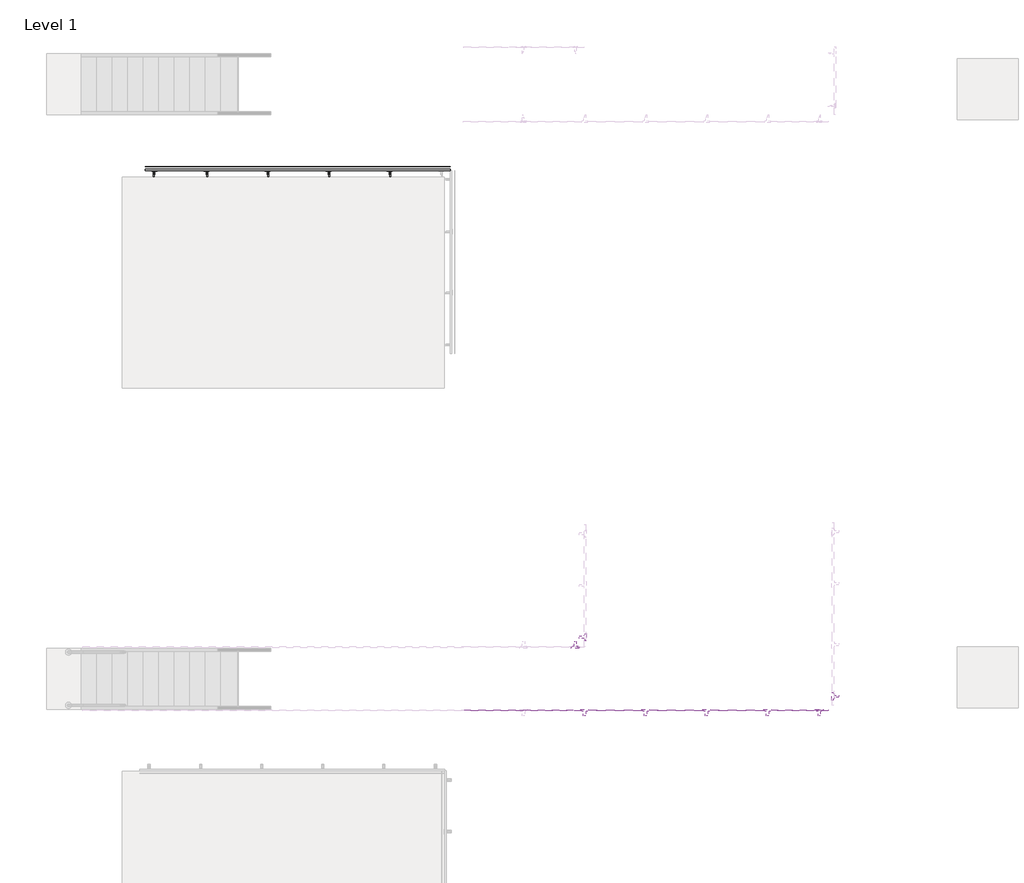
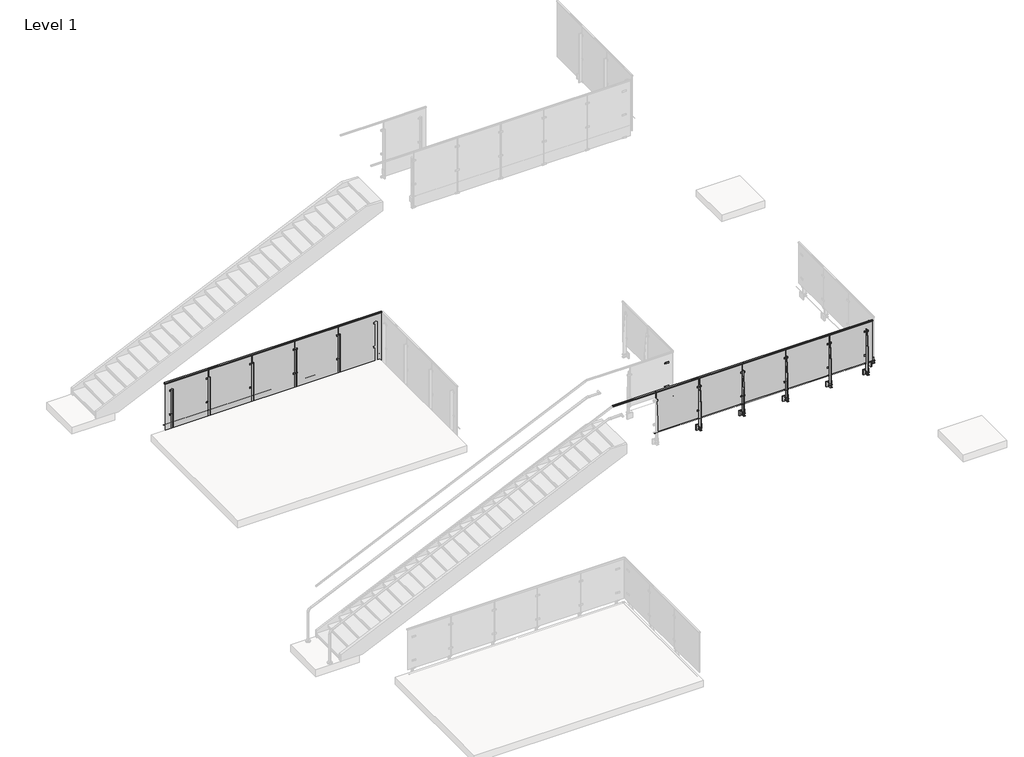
# One storey, part 19 of 37: 5 proxies, 2 railings.
"""IFC4 building model written with IfcOpenShell, lengths in millimetres."""

from ifc_helpers import new_model, si_unit, point, frame, frame_2d, origin, place, context, project, spatial, polyline, circle_curve, trimmed, segment, composite_curve, outline, extrude, faceted_brep, transform, mapped, element, save
from components import baluster_end_post_viva_solo_top_mount_260e03f1, baluster_end_post_viva_solo_top_mount_5ac118a2, baluster_end_post_viva_solo_top_mount_5a94812b

model = new_model("IFC4")

# Units and contexts
model_context = context("Model", 3, world=origin())
ifc_project = project(units=[si_unit("LENGTHUNIT", "METRE", prefix="MILLI")], contexts=[model_context])

# Site, building, storey
site = spatial("IfcSite", under=ifc_project)
building = spatial("IfcBuilding", under=site)
storey = spatial("IfcBuildingStorey", under=building, Name="Level 1", Elevation=0.0)

# Proxies
placement = place(None, origin())
baluster_end_post_viva_solo_top_mount_shape = baluster_end_post_viva_solo_top_mount_260e03f1(model_context)
element("IfcBuildingElementProxy", 1, Name="Baluster-End-Post-VIVA-SOLO-Top Mount : ANCHORED TO CONCRETE_FASCIA B1 MOUNT FOLD_STRAIGHT", ObjectType="Baluster-End-Post-VIVA-SOLO-Top Mount : ANCHORED TO CONCRETE_FASCIA B1 MOUNT FOLD_STRAIGHT", at=placement, inside=storey, context=model_context, shape_type="MappedRepresentation", body=[
    mapped(baluster_end_post_viva_solo_top_mount_shape, transform((-1336.4525648, 22865.7703161, 3047.492), x_axis=(0.0, 1.0, 0.0), y_axis=(-1.0, 0.0, 0.0), z_axis=(0.0, 0.0, 1.0))),
])
element("IfcBuildingElementProxy", 2, Name="Baluster-End-Post-VIVA-SOLO-Top Mount : ANCHORED TO CONCRETE_FASCIA B1 MOUNT FOLD_STRAIGHT", ObjectType="Baluster-End-Post-VIVA-SOLO-Top Mount : ANCHORED TO CONCRETE_FASCIA B1 MOUNT FOLD_STRAIGHT", at=placement, inside=storey, context=model_context, shape_type="MappedRepresentation", body=[
    mapped(baluster_end_post_viva_solo_top_mount_shape, transform((-5423.864819, 23785.0994132, 3047.492), x_axis=(-1.0, 0.0, 0.0), y_axis=(0.0, -1.0, 0.0), z_axis=(0.0, 0.0, 1.0))),
])
baluster_end_post_viva_solo_top_mount_2_shape = baluster_end_post_viva_solo_top_mount_5ac118a2(model_context)
element("IfcBuildingElementProxy", 3, Name="Baluster-End-Post-VIVA-SOLO-Top Mount : ANCHORED TO CONCRETE_FASCIA A1 MOUNT FOLD_STRAIGHT", ObjectType="Baluster-End-Post-VIVA-SOLO-Top Mount : ANCHORED TO CONCRETE_FASCIA A1 MOUNT FOLD_STRAIGHT", at=placement, inside=storey, context=model_context, shape_type="MappedRepresentation", body=[
    mapped(baluster_end_post_viva_solo_top_mount_2_shape, transform((-12734.6116451, 31848.6867615, -0.508), x_axis=(1.0, 0.0, 0.0), y_axis=(0.0, 1.0, 0.0), z_axis=(0.0, 0.0, 1.0))),
])
baluster_end_post_viva_solo_top_mount_3_shape = baluster_end_post_viva_solo_top_mount_5a94812b(model_context)
element("IfcBuildingElementProxy", 4, Name="Baluster-End-Post-VIVA-SOLO-Top Mount : ANCHORED TO CONCRETE_FASCIA B1 MOUNT FOLD_STRAIGHT", ObjectType="Baluster-End-Post-VIVA-SOLO-Top Mount : ANCHORED TO CONCRETE_FASCIA B1 MOUNT FOLD_STRAIGHT", at=placement, inside=storey, context=model_context, shape_type="MappedRepresentation", body=[
    mapped(baluster_end_post_viva_solo_top_mount_3_shape, transform((-1359.864819, 22841.5801942, 3047.492), x_axis=(1.0, 0.0, 0.0), y_axis=(0.0, 1.0, 0.0), z_axis=(0.0, 0.0, 1.0))),
])
element("IfcBuildingElementProxy", 5, Name="Baluster-End-Post-VIVA-SOLO-Top Mount : ANCHORED TO CONCRETE_FASCIA B1 MOUNT FOLD_STRAIGHT", ObjectType="Baluster-End-Post-VIVA-SOLO-Top Mount : ANCHORED TO CONCRETE_FASCIA B1 MOUNT FOLD_STRAIGHT", at=placement, inside=storey, context=model_context, shape_type="MappedRepresentation", body=[
    mapped(baluster_end_post_viva_solo_top_mount_3_shape, transform((-5355.7361996, 23851.3929275, 3047.492), x_axis=(0.0, -1.0, 0.0), y_axis=(1.0, 0.0, 0.0), z_axis=(0.0, 0.0, 1.0))),
])

# Railings
element("IfcRailing", 6, ObjectType="VIVA-SOLO-Glass-Fascia Mount-Straight-A1", at=placement, inside=storey, context=model_context, shape_type="SweptSolid", body=[
    extrude(outline(composite_curve([segment(trimmed(circle_curve(frame_2d((31848.6867615, -0.254)), 0.254), [point((31848.4327615, -0.254))], [point((31848.9407615, -0.254))], False, "CARTESIAN"), True, "CONTINUOUS"), segment(trimmed(circle_curve(frame_2d((31848.6867615, -0.254)), 0.254), [point((31848.9407615, -0.254))], [point((31848.4327615, -0.254))], False, "CARTESIAN"), True, "CONTINUOUS")], self_intersect=False)), frame((-12734.6116451, 0.0, 0.0), z_axis=(1.0, 0.0, 0.0), x_axis=(0.0, 1.0, 0.0)), (0.0, 0.0, 1.0), 5080.0),
    extrude(outline(composite_curve([segment(trimmed(circle_curve(frame_2d((31848.6867615, -0.254)), 0.254), [point((31848.4327615, -0.254))], [point((31848.9407615, -0.254))], False, "CARTESIAN"), True, "CONTINUOUS"), segment(trimmed(circle_curve(frame_2d((31848.6867615, -0.254)), 0.254), [point((31848.9407615, -0.254))], [point((31848.4327615, -0.254))], False, "CARTESIAN"), True, "CONTINUOUS")], self_intersect=False)), frame((-12734.6116451, 0.0, 0.0), z_axis=(1.0, 0.0, 0.0), x_axis=(0.0, 1.0, 0.0)), (0.0, 0.0, 1.0), 5080.0),
    extrude(outline(polyline([(31780.7417615, 1079.5), (31802.9667615, 1079.5), (31802.9667615, 1054.1), (31798.2042615, 1054.1), (31798.2042615, 1074.7375), (31785.5042615, 1074.7375), (31785.5042615, 1054.1), (31780.7417615, 1054.1), (31780.7417615, 1079.5)])), frame((-12734.6116451, 0.0, 0.0), z_axis=(1.0, 0.0, 0.0), x_axis=(0.0, 1.0, 0.0)), (0.0, 0.0, 1.0), 5080.0),
    extrude(outline(polyline([(-8657.5285985, 31798.1407615), (-7666.9285985, 31798.1407615), (-7666.9285985, 31785.4407615), (-8657.5285985, 31785.4407615), (-8657.5285985, 31798.1407615)])), frame((0.0, 0.0, -304.8), z_axis=(0.0, 0.0, 1.0), x_axis=(1.0, 0.0, 0.0)), (0.0, 0.0, 1.0), 1379.474),
    extrude(outline(polyline([(-8650.7678951, 31775.9157615), (-8650.7678951, 31675.9032615), (-8664.2616451, 31675.9032615), (-8664.2616451, 31775.9157615), (-8650.7678951, 31775.9157615)])), frame((0.0, 0.0, -215.9), z_axis=(0.0, 0.0, 1.0), x_axis=(1.0, 0.0, 0.0)), (0.0, 0.0, 1.0), 127.0),
    extrude(outline(polyline([(-8664.2616451, 31775.9157615), (-8664.2616451, 31712.4157615), (-8676.9616451, 31712.4157615), (-8676.9616451, 31775.9157615), (-8664.2616451, 31775.9157615)])), frame((0.0, 0.0, -310.8235954), z_axis=(0.0, 0.0, 1.0), x_axis=(1.0, 0.0, 0.0)), (0.0, 0.0, 1.0), 1204.9740667),
    extrude(outline(polyline([(-8715.0616451, 31785.4407615), (-8626.1616451, 31785.4407615), (-8626.1616451, 31775.9157615), (-8715.0616451, 31775.9157615), (-8715.0616451, 31785.4407615)])), frame((0.0, 0.0, -310.8550311), z_axis=(0.0, 0.0, 1.0), x_axis=(1.0, 0.0, 0.0)), (0.0, 0.0, 1.0), 31.75),
    extrude(outline(polyline([(-8715.0616451, 31807.6657615), (-8626.1616451, 31807.6657615), (-8626.1616451, 31798.1407615), (-8715.0616451, 31798.1407615), (-8715.0616451, 31807.6657615)])), frame((0.0, 0.0, -310.8550311), z_axis=(0.0, 0.0, 1.0), x_axis=(1.0, 0.0, 0.0)), (0.0, 0.0, 1.0), 31.75),
    extrude(outline(polyline([(-8715.0616451, 31785.4407615), (-8626.1616451, 31785.4407615), (-8626.1616451, 31775.9157615), (-8715.0616451, 31775.9157615), (-8715.0616451, 31785.4407615)])), frame((0.0, 0.0, 251.9910694), z_axis=(0.0, 0.0, 1.0), x_axis=(1.0, 0.0, 0.0)), (0.0, 0.0, 1.0), 31.75),
    extrude(outline(polyline([(-8715.0616451, 31785.4407615), (-8626.1616451, 31785.4407615), (-8626.1616451, 31775.9157615), (-8715.0616451, 31775.9157615), (-8715.0616451, 31785.4407615)])), frame((0.0, 0.0, 838.2992187), z_axis=(0.0, 0.0, 1.0), x_axis=(1.0, 0.0, 0.0)), (0.0, 0.0, 1.0), 31.75),
    extrude(outline(polyline([(-8715.0616451, 31807.6657615), (-8626.1616451, 31807.6657615), (-8626.1616451, 31798.1407615), (-8715.0616451, 31798.1407615), (-8715.0616451, 31807.6657615)])), frame((0.0, 0.0, 251.9910694), z_axis=(0.0, 0.0, 1.0), x_axis=(1.0, 0.0, 0.0)), (0.0, 0.0, 1.0), 31.75),
    extrude(outline(polyline([(-8715.0616451, 31807.6657615), (-8626.1616451, 31807.6657615), (-8626.1616451, 31798.1407615), (-8715.0616451, 31798.1407615), (-8715.0616451, 31807.6657615)])), frame((0.0, 0.0, 838.2992187), z_axis=(0.0, 0.0, 1.0), x_axis=(1.0, 0.0, 0.0)), (0.0, 0.0, 1.0), 31.75),
    extrude(outline(composite_curve([segment(trimmed(circle_curve(frame_2d((-294.5829803, -8670.6206062)), 6.35), [point((-294.5829803, -8664.2706062))], [point((-294.5829803, -8676.9706062))], False, "CARTESIAN"), True, "CONTINUOUS"), segment(trimmed(circle_curve(frame_2d((-294.5829803, -8670.6206062)), 6.35), [point((-294.5829803, -8676.9706062))], [point((-294.5829803, -8664.2706062))], False, "CARTESIAN"), True, "CONTINUOUS")], self_intersect=False)), frame((0.0, 31785.4407615, 0.0), z_axis=(0.0, 1.0, 0.0), x_axis=(0.0, 0.0, 1.0)), (0.0, 0.0, 1.0), 12.7),
    extrude(outline(composite_curve([segment(trimmed(circle_curve(frame_2d((267.8660694, -8670.6116451)), 6.35), [point((267.8660694, -8664.2616451))], [point((267.8660694, -8676.9616451))], False, "CARTESIAN"), True, "CONTINUOUS"), segment(trimmed(circle_curve(frame_2d((267.8660694, -8670.6116451)), 6.35), [point((267.8660694, -8676.9616451))], [point((267.8660694, -8664.2616451))], False, "CARTESIAN"), True, "CONTINUOUS")], self_intersect=False)), frame((0.0, 31785.4407615, 0.0), z_axis=(0.0, 1.0, 0.0), x_axis=(0.0, 0.0, 1.0)), (0.0, 0.0, 1.0), 12.7),
    extrude(outline(composite_curve([segment(trimmed(circle_curve(frame_2d((854.1742187, -8670.6116451)), 6.35), [point((854.1742187, -8664.2616451))], [point((854.1742187, -8676.9616451))], False, "CARTESIAN"), True, "CONTINUOUS"), segment(trimmed(circle_curve(frame_2d((854.1742187, -8670.6116451)), 6.35), [point((854.1742187, -8676.9616451))], [point((854.1742187, -8664.2616451))], False, "CARTESIAN"), True, "CONTINUOUS")], self_intersect=False)), frame((0.0, 31785.4407615, 0.0), z_axis=(0.0, 1.0, 0.0), x_axis=(0.0, 0.0, 1.0)), (0.0, 0.0, 1.0), 12.7),
    extrude(outline(polyline([(-9673.5285985, 31798.1407615), (-8682.9285985, 31798.1407615), (-8682.9285985, 31785.4407615), (-9673.5285985, 31785.4407615), (-9673.5285985, 31798.1407615)])), frame((0.0, 0.0, -304.8), z_axis=(0.0, 0.0, 1.0), x_axis=(1.0, 0.0, 0.0)), (0.0, 0.0, 1.0), 1379.474),
    extrude(outline(polyline([(-9666.7678951, 31775.9157615), (-9666.7678951, 31675.9032615), (-9680.2616451, 31675.9032615), (-9680.2616451, 31775.9157615), (-9666.7678951, 31775.9157615)])), frame((0.0, 0.0, -215.9), z_axis=(0.0, 0.0, 1.0), x_axis=(1.0, 0.0, 0.0)), (0.0, 0.0, 1.0), 127.0),
    extrude(outline(polyline([(-9680.2616451, 31775.9157615), (-9680.2616451, 31712.4157615), (-9692.9616451, 31712.4157615), (-9692.9616451, 31775.9157615), (-9680.2616451, 31775.9157615)])), frame((0.0, 0.0, -310.8235954), z_axis=(0.0, 0.0, 1.0), x_axis=(1.0, 0.0, 0.0)), (0.0, 0.0, 1.0), 1204.9740667),
    extrude(outline(polyline([(-9731.0616451, 31785.4407615), (-9642.1616451, 31785.4407615), (-9642.1616451, 31775.9157615), (-9731.0616451, 31775.9157615), (-9731.0616451, 31785.4407615)])), frame((0.0, 0.0, -310.8550311), z_axis=(0.0, 0.0, 1.0), x_axis=(1.0, 0.0, 0.0)), (0.0, 0.0, 1.0), 31.75),
    extrude(outline(polyline([(-9731.0616451, 31807.6657615), (-9642.1616451, 31807.6657615), (-9642.1616451, 31798.1407615), (-9731.0616451, 31798.1407615), (-9731.0616451, 31807.6657615)])), frame((0.0, 0.0, -310.8550311), z_axis=(0.0, 0.0, 1.0), x_axis=(1.0, 0.0, 0.0)), (0.0, 0.0, 1.0), 31.75),
    extrude(outline(polyline([(-9731.0616451, 31785.4407615), (-9642.1616451, 31785.4407615), (-9642.1616451, 31775.9157615), (-9731.0616451, 31775.9157615), (-9731.0616451, 31785.4407615)])), frame((0.0, 0.0, 251.9910694), z_axis=(0.0, 0.0, 1.0), x_axis=(1.0, 0.0, 0.0)), (0.0, 0.0, 1.0), 31.75),
    extrude(outline(polyline([(-9731.0616451, 31785.4407615), (-9642.1616451, 31785.4407615), (-9642.1616451, 31775.9157615), (-9731.0616451, 31775.9157615), (-9731.0616451, 31785.4407615)])), frame((0.0, 0.0, 838.2992187), z_axis=(0.0, 0.0, 1.0), x_axis=(1.0, 0.0, 0.0)), (0.0, 0.0, 1.0), 31.75),
    extrude(outline(polyline([(-9731.0616451, 31807.6657615), (-9642.1616451, 31807.6657615), (-9642.1616451, 31798.1407615), (-9731.0616451, 31798.1407615), (-9731.0616451, 31807.6657615)])), frame((0.0, 0.0, 251.9910694), z_axis=(0.0, 0.0, 1.0), x_axis=(1.0, 0.0, 0.0)), (0.0, 0.0, 1.0), 31.75),
    extrude(outline(polyline([(-9731.0616451, 31807.6657615), (-9642.1616451, 31807.6657615), (-9642.1616451, 31798.1407615), (-9731.0616451, 31798.1407615), (-9731.0616451, 31807.6657615)])), frame((0.0, 0.0, 838.2992187), z_axis=(0.0, 0.0, 1.0), x_axis=(1.0, 0.0, 0.0)), (0.0, 0.0, 1.0), 31.75),
    extrude(outline(composite_curve([segment(trimmed(circle_curve(frame_2d((-294.5829803, -9686.6206062)), 6.35), [point((-294.5829803, -9680.2706062))], [point((-294.5829803, -9692.9706062))], False, "CARTESIAN"), True, "CONTINUOUS"), segment(trimmed(circle_curve(frame_2d((-294.5829803, -9686.6206062)), 6.35), [point((-294.5829803, -9692.9706062))], [point((-294.5829803, -9680.2706062))], False, "CARTESIAN"), True, "CONTINUOUS")], self_intersect=False)), frame((0.0, 31785.4407615, 0.0), z_axis=(0.0, 1.0, 0.0), x_axis=(0.0, 0.0, 1.0)), (0.0, 0.0, 1.0), 12.7),
    extrude(outline(composite_curve([segment(trimmed(circle_curve(frame_2d((267.8660694, -9686.6116451)), 6.35), [point((267.8660694, -9680.2616451))], [point((267.8660694, -9692.9616451))], False, "CARTESIAN"), True, "CONTINUOUS"), segment(trimmed(circle_curve(frame_2d((267.8660694, -9686.6116451)), 6.35), [point((267.8660694, -9692.9616451))], [point((267.8660694, -9680.2616451))], False, "CARTESIAN"), True, "CONTINUOUS")], self_intersect=False)), frame((0.0, 31785.4407615, 0.0), z_axis=(0.0, 1.0, 0.0), x_axis=(0.0, 0.0, 1.0)), (0.0, 0.0, 1.0), 12.7),
    extrude(outline(composite_curve([segment(trimmed(circle_curve(frame_2d((854.1742187, -9686.6116451)), 6.35), [point((854.1742187, -9680.2616451))], [point((854.1742187, -9692.9616451))], False, "CARTESIAN"), True, "CONTINUOUS"), segment(trimmed(circle_curve(frame_2d((854.1742187, -9686.6116451)), 6.35), [point((854.1742187, -9692.9616451))], [point((854.1742187, -9680.2616451))], False, "CARTESIAN"), True, "CONTINUOUS")], self_intersect=False)), frame((0.0, 31785.4407615, 0.0), z_axis=(0.0, 1.0, 0.0), x_axis=(0.0, 0.0, 1.0)), (0.0, 0.0, 1.0), 12.7),
    extrude(outline(polyline([(-10689.5285985, 31798.1407615), (-9698.9285985, 31798.1407615), (-9698.9285985, 31785.4407615), (-10689.5285985, 31785.4407615), (-10689.5285985, 31798.1407615)])), frame((0.0, 0.0, -304.8), z_axis=(0.0, 0.0, 1.0), x_axis=(1.0, 0.0, 0.0)), (0.0, 0.0, 1.0), 1379.474),
    extrude(outline(polyline([(-10682.7678951, 31775.9157615), (-10682.7678951, 31675.9032615), (-10696.2616451, 31675.9032615), (-10696.2616451, 31775.9157615), (-10682.7678951, 31775.9157615)])), frame((0.0, 0.0, -215.9), z_axis=(0.0, 0.0, 1.0), x_axis=(1.0, 0.0, 0.0)), (0.0, 0.0, 1.0), 127.0),
    extrude(outline(polyline([(-10696.2616451, 31775.9157615), (-10696.2616451, 31712.4157615), (-10708.9616451, 31712.4157615), (-10708.9616451, 31775.9157615), (-10696.2616451, 31775.9157615)])), frame((0.0, 0.0, -310.8235954), z_axis=(0.0, 0.0, 1.0), x_axis=(1.0, 0.0, 0.0)), (0.0, 0.0, 1.0), 1204.9740667),
    extrude(outline(polyline([(-10747.0616451, 31785.4407615), (-10658.1616451, 31785.4407615), (-10658.1616451, 31775.9157615), (-10747.0616451, 31775.9157615), (-10747.0616451, 31785.4407615)])), frame((0.0, 0.0, -310.8550311), z_axis=(0.0, 0.0, 1.0), x_axis=(1.0, 0.0, 0.0)), (0.0, 0.0, 1.0), 31.75),
    extrude(outline(polyline([(-10747.0616451, 31807.6657615), (-10658.1616451, 31807.6657615), (-10658.1616451, 31798.1407615), (-10747.0616451, 31798.1407615), (-10747.0616451, 31807.6657615)])), frame((0.0, 0.0, -310.8550311), z_axis=(0.0, 0.0, 1.0), x_axis=(1.0, 0.0, 0.0)), (0.0, 0.0, 1.0), 31.75),
    extrude(outline(polyline([(-10747.0616451, 31785.4407615), (-10658.1616451, 31785.4407615), (-10658.1616451, 31775.9157615), (-10747.0616451, 31775.9157615), (-10747.0616451, 31785.4407615)])), frame((0.0, 0.0, 251.9910694), z_axis=(0.0, 0.0, 1.0), x_axis=(1.0, 0.0, 0.0)), (0.0, 0.0, 1.0), 31.75),
    extrude(outline(polyline([(-10747.0616451, 31785.4407615), (-10658.1616451, 31785.4407615), (-10658.1616451, 31775.9157615), (-10747.0616451, 31775.9157615), (-10747.0616451, 31785.4407615)])), frame((0.0, 0.0, 838.2992187), z_axis=(0.0, 0.0, 1.0), x_axis=(1.0, 0.0, 0.0)), (0.0, 0.0, 1.0), 31.75),
    extrude(outline(polyline([(-10747.0616451, 31807.6657615), (-10658.1616451, 31807.6657615), (-10658.1616451, 31798.1407615), (-10747.0616451, 31798.1407615), (-10747.0616451, 31807.6657615)])), frame((0.0, 0.0, 251.9910694), z_axis=(0.0, 0.0, 1.0), x_axis=(1.0, 0.0, 0.0)), (0.0, 0.0, 1.0), 31.75),
    extrude(outline(polyline([(-10747.0616451, 31807.6657615), (-10658.1616451, 31807.6657615), (-10658.1616451, 31798.1407615), (-10747.0616451, 31798.1407615), (-10747.0616451, 31807.6657615)])), frame((0.0, 0.0, 838.2992187), z_axis=(0.0, 0.0, 1.0), x_axis=(1.0, 0.0, 0.0)), (0.0, 0.0, 1.0), 31.75),
    extrude(outline(composite_curve([segment(trimmed(circle_curve(frame_2d((-294.5829803, -10702.6206062)), 6.35), [point((-294.5829803, -10696.2706062))], [point((-294.5829803, -10708.9706062))], False, "CARTESIAN"), True, "CONTINUOUS"), segment(trimmed(circle_curve(frame_2d((-294.5829803, -10702.6206062)), 6.35), [point((-294.5829803, -10708.9706062))], [point((-294.5829803, -10696.2706062))], False, "CARTESIAN"), True, "CONTINUOUS")], self_intersect=False)), frame((0.0, 31785.4407615, 0.0), z_axis=(0.0, 1.0, 0.0), x_axis=(0.0, 0.0, 1.0)), (0.0, 0.0, 1.0), 12.7),
    extrude(outline(composite_curve([segment(trimmed(circle_curve(frame_2d((267.8660694, -10702.6116451)), 6.35), [point((267.8660694, -10696.2616451))], [point((267.8660694, -10708.9616451))], False, "CARTESIAN"), True, "CONTINUOUS"), segment(trimmed(circle_curve(frame_2d((267.8660694, -10702.6116451)), 6.35), [point((267.8660694, -10708.9616451))], [point((267.8660694, -10696.2616451))], False, "CARTESIAN"), True, "CONTINUOUS")], self_intersect=False)), frame((0.0, 31785.4407615, 0.0), z_axis=(0.0, 1.0, 0.0), x_axis=(0.0, 0.0, 1.0)), (0.0, 0.0, 1.0), 12.7),
    extrude(outline(composite_curve([segment(trimmed(circle_curve(frame_2d((854.1742187, -10702.6116451)), 6.35), [point((854.1742187, -10696.2616451))], [point((854.1742187, -10708.9616451))], False, "CARTESIAN"), True, "CONTINUOUS"), segment(trimmed(circle_curve(frame_2d((854.1742187, -10702.6116451)), 6.35), [point((854.1742187, -10708.9616451))], [point((854.1742187, -10696.2616451))], False, "CARTESIAN"), True, "CONTINUOUS")], self_intersect=False)), frame((0.0, 31785.4407615, 0.0), z_axis=(0.0, 1.0, 0.0), x_axis=(0.0, 0.0, 1.0)), (0.0, 0.0, 1.0), 12.7),
    extrude(outline(polyline([(-11705.5285985, 31798.1407615), (-10714.9285985, 31798.1407615), (-10714.9285985, 31785.4407615), (-11705.5285985, 31785.4407615), (-11705.5285985, 31798.1407615)])), frame((0.0, 0.0, -304.8), z_axis=(0.0, 0.0, 1.0), x_axis=(1.0, 0.0, 0.0)), (0.0, 0.0, 1.0), 1379.474),
    extrude(outline(polyline([(-11698.7678951, 31775.9157615), (-11698.7678951, 31675.9032615), (-11712.2616451, 31675.9032615), (-11712.2616451, 31775.9157615), (-11698.7678951, 31775.9157615)])), frame((0.0, 0.0, -215.9), z_axis=(0.0, 0.0, 1.0), x_axis=(1.0, 0.0, 0.0)), (0.0, 0.0, 1.0), 127.0),
    extrude(outline(polyline([(-11712.2616451, 31775.9157615), (-11712.2616451, 31712.4157615), (-11724.9616451, 31712.4157615), (-11724.9616451, 31775.9157615), (-11712.2616451, 31775.9157615)])), frame((0.0, 0.0, -310.8235954), z_axis=(0.0, 0.0, 1.0), x_axis=(1.0, 0.0, 0.0)), (0.0, 0.0, 1.0), 1204.9740667),
    extrude(outline(polyline([(-11763.0616451, 31785.4407615), (-11674.1616451, 31785.4407615), (-11674.1616451, 31775.9157615), (-11763.0616451, 31775.9157615), (-11763.0616451, 31785.4407615)])), frame((0.0, 0.0, -310.8550311), z_axis=(0.0, 0.0, 1.0), x_axis=(1.0, 0.0, 0.0)), (0.0, 0.0, 1.0), 31.75),
    extrude(outline(polyline([(-11763.0616451, 31807.6657615), (-11674.1616451, 31807.6657615), (-11674.1616451, 31798.1407615), (-11763.0616451, 31798.1407615), (-11763.0616451, 31807.6657615)])), frame((0.0, 0.0, -310.8550311), z_axis=(0.0, 0.0, 1.0), x_axis=(1.0, 0.0, 0.0)), (0.0, 0.0, 1.0), 31.75),
    extrude(outline(polyline([(-11763.0616451, 31785.4407615), (-11674.1616451, 31785.4407615), (-11674.1616451, 31775.9157615), (-11763.0616451, 31775.9157615), (-11763.0616451, 31785.4407615)])), frame((0.0, 0.0, 251.9910694), z_axis=(0.0, 0.0, 1.0), x_axis=(1.0, 0.0, 0.0)), (0.0, 0.0, 1.0), 31.75),
    extrude(outline(polyline([(-11763.0616451, 31785.4407615), (-11674.1616451, 31785.4407615), (-11674.1616451, 31775.9157615), (-11763.0616451, 31775.9157615), (-11763.0616451, 31785.4407615)])), frame((0.0, 0.0, 838.2992187), z_axis=(0.0, 0.0, 1.0), x_axis=(1.0, 0.0, 0.0)), (0.0, 0.0, 1.0), 31.75),
    extrude(outline(polyline([(-11763.0616451, 31807.6657615), (-11674.1616451, 31807.6657615), (-11674.1616451, 31798.1407615), (-11763.0616451, 31798.1407615), (-11763.0616451, 31807.6657615)])), frame((0.0, 0.0, 251.9910694), z_axis=(0.0, 0.0, 1.0), x_axis=(1.0, 0.0, 0.0)), (0.0, 0.0, 1.0), 31.75),
    extrude(outline(polyline([(-11763.0616451, 31807.6657615), (-11674.1616451, 31807.6657615), (-11674.1616451, 31798.1407615), (-11763.0616451, 31798.1407615), (-11763.0616451, 31807.6657615)])), frame((0.0, 0.0, 838.2992187), z_axis=(0.0, 0.0, 1.0), x_axis=(1.0, 0.0, 0.0)), (0.0, 0.0, 1.0), 31.75),
    extrude(outline(composite_curve([segment(trimmed(circle_curve(frame_2d((-294.5829803, -11718.6206062)), 6.35), [point((-294.5829803, -11712.2706062))], [point((-294.5829803, -11724.9706062))], False, "CARTESIAN"), True, "CONTINUOUS"), segment(trimmed(circle_curve(frame_2d((-294.5829803, -11718.6206062)), 6.35), [point((-294.5829803, -11724.9706062))], [point((-294.5829803, -11712.2706062))], False, "CARTESIAN"), True, "CONTINUOUS")], self_intersect=False)), frame((0.0, 31785.4407615, 0.0), z_axis=(0.0, 1.0, 0.0), x_axis=(0.0, 0.0, 1.0)), (0.0, 0.0, 1.0), 12.7),
    extrude(outline(composite_curve([segment(trimmed(circle_curve(frame_2d((267.8660694, -11718.6116451)), 6.35), [point((267.8660694, -11712.2616451))], [point((267.8660694, -11724.9616451))], False, "CARTESIAN"), True, "CONTINUOUS"), segment(trimmed(circle_curve(frame_2d((267.8660694, -11718.6116451)), 6.35), [point((267.8660694, -11724.9616451))], [point((267.8660694, -11712.2616451))], False, "CARTESIAN"), True, "CONTINUOUS")], self_intersect=False)), frame((0.0, 31785.4407615, 0.0), z_axis=(0.0, 1.0, 0.0), x_axis=(0.0, 0.0, 1.0)), (0.0, 0.0, 1.0), 12.7),
    extrude(outline(composite_curve([segment(trimmed(circle_curve(frame_2d((854.1742187, -11718.6116451)), 6.35), [point((854.1742187, -11712.2616451))], [point((854.1742187, -11724.9616451))], False, "CARTESIAN"), True, "CONTINUOUS"), segment(trimmed(circle_curve(frame_2d((854.1742187, -11718.6116451)), 6.35), [point((854.1742187, -11724.9616451))], [point((854.1742187, -11712.2616451))], False, "CARTESIAN"), True, "CONTINUOUS")], self_intersect=False)), frame((0.0, 31785.4407615, 0.0), z_axis=(0.0, 1.0, 0.0), x_axis=(0.0, 0.0, 1.0)), (0.0, 0.0, 1.0), 12.7),
    extrude(outline(polyline([(-12721.5285985, 31798.1407615), (-11730.9285985, 31798.1407615), (-11730.9285985, 31785.4407615), (-12721.5285985, 31785.4407615), (-12721.5285985, 31798.1407615)])), frame((0.0, 0.0, -304.8), z_axis=(0.0, 0.0, 1.0), x_axis=(1.0, 0.0, 0.0)), (0.0, 0.0, 1.0), 1379.474),
])
element("IfcRailing", 7, ObjectType="VIVA-SOLO-Glass-Fascia Mount-Straight-B1", at=placement, inside=storey, context=model_context, shape_type="SolidModel", body=[
    extrude(outline(composite_curve([segment(trimmed(circle_curve(frame_2d((22841.5801942, 3047.746)), 0.254), [point((22841.3261942, 3047.746))], [point((22841.8341942, 3047.746))], False, "CARTESIAN"), True, "CONTINUOUS"), segment(trimmed(circle_curve(frame_2d((22841.5801942, 3047.746)), 0.254), [point((22841.8341942, 3047.746))], [point((22841.3261942, 3047.746))], False, "CARTESIAN"), True, "CONTINUOUS")], self_intersect=False)), frame((-6439.864819, 0.0, 0.0), z_axis=(1.0, 0.0, 0.0), x_axis=(0.0, 1.0, 0.0)), (0.0, 0.0, 1.0), 5080.0),
    extrude(outline(composite_curve([segment(trimmed(circle_curve(frame_2d((22841.5801942, 3047.746)), 0.254), [point((22841.3261942, 3047.746))], [point((22841.8341942, 3047.746))], False, "CARTESIAN"), True, "CONTINUOUS"), segment(trimmed(circle_curve(frame_2d((22841.5801942, 3047.746)), 0.254), [point((22841.8341942, 3047.746))], [point((22841.3261942, 3047.746))], False, "CARTESIAN"), True, "CONTINUOUS")], self_intersect=False)), frame((-6439.864819, 0.0, 0.0), z_axis=(1.0, 0.0, 0.0), x_axis=(0.0, 1.0, 0.0)), (0.0, 0.0, 1.0), 5080.0),
    faceted_brep([(-1359.864819, 22773.6351942, 4127.5), (-1359.864819, 22773.6351942, 4102.1), (-1359.864819, 22778.3976942, 4102.1), (-1359.864819, 22778.3976942, 4122.7375), (-1359.864819, 22791.0976942, 4122.7375), (-1359.864819, 22791.0976942, 4102.1), (-1359.864819, 22795.8601942, 4102.1), (-1359.864819, 22795.8601942, 4127.5), (-6439.864819, 22795.8601942, 4127.5), (-6439.864819, 22773.6351942, 4127.5), (-6439.864819, 22795.8601942, 4102.1), (-6439.864819, 22791.0976942, 4102.1), (-6439.864819, 22791.0976942, 4122.7375), (-6439.864819, 22778.3976942, 4122.7375), (-6439.864819, 22778.3976942, 4102.1), (-6439.864819, 22773.6351942, 4102.1), (-7440.275569, 22773.6351942, 4127.5), (-7440.275569, 22795.8601942, 4127.5), (-7440.275569, 22795.8601942, 4102.1), (-7440.275569, 22791.0976942, 4102.1), (-7440.275569, 22791.0976942, 4122.7375), (-7440.275569, 22778.3976942, 4122.7375), (-7440.275569, 22778.3976942, 4102.1), (-7440.275569, 22773.6351942, 4102.1)], [[[0, 1, 2, 3, 4, 5, 6, 7]], [[8, 9, 0, 7]], [[10, 8, 7, 6]], [[11, 10, 6, 5]], [[12, 11, 5, 4]], [[13, 12, 4, 3]], [[14, 13, 3, 2]], [[15, 14, 2, 1]], [[9, 15, 1, 0]], [[16, 17, 18, 19, 20, 21, 22, 23]], [[17, 16, 9, 8]], [[18, 17, 8, 10]], [[19, 18, 10, 11]], [[20, 19, 11, 12]], [[21, 20, 12, 13]], [[22, 21, 13, 14]], [[23, 22, 14, 15]], [[16, 23, 15, 9]]]),
    extrude(outline(polyline([(-2362.7817724, 22791.0341942), (-1372.1817724, 22791.0341942), (-1372.1817724, 22778.3341942), (-2362.7817724, 22778.3341942), (-2362.7817724, 22791.0341942)])), frame((0.0, 0.0, 3124.2), z_axis=(0.0, 0.0, 1.0), x_axis=(1.0, 0.0, 0.0)), (0.0, 0.0, 1.0), 998.474),
    extrude(outline(polyline([(22768.8091942, 3962.4), (22768.8091942, 2863.85), (22705.3091942, 2863.85), (22705.3091942, 3429.0), (22743.4091942, 3962.4), (22768.8091942, 3962.4)])), frame((-2382.214819, 0.0, 0.0), z_axis=(1.0, 0.0, 0.0), x_axis=(0.0, 1.0, 0.0)), (0.0, 0.0, 1.0), 12.7),
    extrude(outline(polyline([(-2356.021069, 22784.6841942), (-2356.021069, 22691.0216942), (-2395.708569, 22691.0216942), (-2395.708569, 22784.6841942), (-2356.021069, 22784.6841942)])), frame((0.0, 0.0, 2919.4125), z_axis=(0.0, 0.0, 1.0), x_axis=(1.0, 0.0, 0.0)), (0.0, 0.0, 1.0), 12.7),
    extrude(outline(polyline([(-2356.021069, 22784.6841942), (-2356.021069, 22691.0216942), (-2395.708569, 22691.0216942), (-2395.708569, 22784.6841942), (-2356.021069, 22784.6841942)])), frame((0.0, 0.0, 2859.0875), z_axis=(0.0, 0.0, 1.0), x_axis=(1.0, 0.0, 0.0)), (0.0, 0.0, 1.0), 12.7),
    extrude(outline(polyline([(-2420.314819, 22778.3341942), (-2331.414819, 22778.3341942), (-2331.414819, 22768.8091942), (-2420.314819, 22768.8091942), (-2420.314819, 22778.3341942)])), frame((0.0, 0.0, 3299.9910694), z_axis=(0.0, 0.0, 1.0), x_axis=(1.0, 0.0, 0.0)), (0.0, 0.0, 1.0), 31.75),
    extrude(outline(polyline([(-2420.314819, 22778.3341942), (-2331.414819, 22778.3341942), (-2331.414819, 22768.8091942), (-2420.314819, 22768.8091942), (-2420.314819, 22778.3341942)])), frame((0.0, 0.0, 3886.2992187), z_axis=(0.0, 0.0, 1.0), x_axis=(1.0, 0.0, 0.0)), (0.0, 0.0, 1.0), 31.75),
    extrude(outline(polyline([(-2420.314819, 22800.5591942), (-2331.414819, 22800.5591942), (-2331.414819, 22791.0341942), (-2420.314819, 22791.0341942), (-2420.314819, 22800.5591942)])), frame((0.0, 0.0, 3299.9910694), z_axis=(0.0, 0.0, 1.0), x_axis=(1.0, 0.0, 0.0)), (0.0, 0.0, 1.0), 31.75),
    extrude(outline(polyline([(-2420.314819, 22800.5591942), (-2331.414819, 22800.5591942), (-2331.414819, 22791.0341942), (-2420.314819, 22791.0341942), (-2420.314819, 22800.5591942)])), frame((0.0, 0.0, 3886.2992187), z_axis=(0.0, 0.0, 1.0), x_axis=(1.0, 0.0, 0.0)), (0.0, 0.0, 1.0), 31.75),
    extrude(outline(polyline([(3124.2, -2331.414819), (3124.2, -2420.314819), (3117.85, -2420.314819), (3095.9353513, -2375.864819), (3117.85, -2331.414819), (3124.2, -2331.414819)])), frame((0.0, 22778.3341942, 0.0), z_axis=(0.0, 1.0, 0.0), x_axis=(0.0, 0.0, 1.0)), (0.0, 0.0, 1.0), 12.7),
    extrude(outline(polyline([(-2439.364819, 22805.3216942), (-2312.364819, 22805.3216942), (-2312.364819, 22784.6841942), (-2439.364819, 22784.6841942), (-2439.364819, 22805.3216942)])), frame((0.0, 0.0, 2832.1), z_axis=(0.0, 0.0, 1.0), x_axis=(1.0, 0.0, 0.0)), (0.0, 0.0, 1.0), 127.0),
    extrude(outline(composite_curve([segment(trimmed(circle_curve(frame_2d((3315.8660694, -2375.864819)), 6.35), [point((3315.8660694, -2369.514819))], [point((3315.8660694, -2382.214819))], False, "CARTESIAN"), True, "CONTINUOUS"), segment(trimmed(circle_curve(frame_2d((3315.8660694, -2375.864819)), 6.35), [point((3315.8660694, -2382.214819))], [point((3315.8660694, -2369.514819))], False, "CARTESIAN"), True, "CONTINUOUS")], self_intersect=False)), frame((0.0, 22778.3341942, 0.0), z_axis=(0.0, 1.0, 0.0), x_axis=(0.0, 0.0, 1.0)), (0.0, 0.0, 1.0), 12.7),
    extrude(outline(composite_curve([segment(trimmed(circle_curve(frame_2d((3902.1742187, -2375.864819)), 6.35), [point((3902.1742187, -2369.514819))], [point((3902.1742187, -2382.214819))], False, "CARTESIAN"), True, "CONTINUOUS"), segment(trimmed(circle_curve(frame_2d((3902.1742187, -2375.864819)), 6.35), [point((3902.1742187, -2382.214819))], [point((3902.1742187, -2369.514819))], False, "CARTESIAN"), True, "CONTINUOUS")], self_intersect=False)), frame((0.0, 22778.3341942, 0.0), z_axis=(0.0, 1.0, 0.0), x_axis=(0.0, 0.0, 1.0)), (0.0, 0.0, 1.0), 12.7),
    extrude(outline(composite_curve([segment(trimmed(circle_curve(frame_2d((3108.325, -2375.864819)), 11.1125), [point((3108.325, -2364.752319))], [point((3108.325, -2386.977319))], False, "CARTESIAN"), True, "CONTINUOUS"), segment(trimmed(circle_curve(frame_2d((3108.325, -2375.864819)), 11.1125), [point((3108.325, -2386.977319))], [point((3108.325, -2364.752319))], False, "CARTESIAN"), True, "CONTINUOUS")], self_intersect=False)), frame((0.0, 22768.8091942, 0.0), z_axis=(0.0, 1.0, 0.0), x_axis=(0.0, 0.0, 1.0)), (0.0, 0.0, 1.0), 25.4),
    extrude(outline(polyline([(-3378.7817724, 22791.0341942), (-2388.1817724, 22791.0341942), (-2388.1817724, 22778.3341942), (-3378.7817724, 22778.3341942), (-3378.7817724, 22791.0341942)])), frame((0.0, 0.0, 3124.2), z_axis=(0.0, 0.0, 1.0), x_axis=(1.0, 0.0, 0.0)), (0.0, 0.0, 1.0), 998.474),
    extrude(outline(polyline([(22768.8091942, 3962.4), (22768.8091942, 2863.85), (22705.3091942, 2863.85), (22705.3091942, 3429.0), (22743.4091942, 3962.4), (22768.8091942, 3962.4)])), frame((-3398.214819, 0.0, 0.0), z_axis=(1.0, 0.0, 0.0), x_axis=(0.0, 1.0, 0.0)), (0.0, 0.0, 1.0), 12.7),
    extrude(outline(polyline([(-3372.021069, 22784.6841942), (-3372.021069, 22691.0216942), (-3411.708569, 22691.0216942), (-3411.708569, 22784.6841942), (-3372.021069, 22784.6841942)])), frame((0.0, 0.0, 2919.4125), z_axis=(0.0, 0.0, 1.0), x_axis=(1.0, 0.0, 0.0)), (0.0, 0.0, 1.0), 12.7),
    extrude(outline(polyline([(-3372.021069, 22784.6841942), (-3372.021069, 22691.0216942), (-3411.708569, 22691.0216942), (-3411.708569, 22784.6841942), (-3372.021069, 22784.6841942)])), frame((0.0, 0.0, 2859.0875), z_axis=(0.0, 0.0, 1.0), x_axis=(1.0, 0.0, 0.0)), (0.0, 0.0, 1.0), 12.7),
    extrude(outline(polyline([(-3436.314819, 22778.3341942), (-3347.414819, 22778.3341942), (-3347.414819, 22768.8091942), (-3436.314819, 22768.8091942), (-3436.314819, 22778.3341942)])), frame((0.0, 0.0, 3299.9910694), z_axis=(0.0, 0.0, 1.0), x_axis=(1.0, 0.0, 0.0)), (0.0, 0.0, 1.0), 31.75),
    extrude(outline(polyline([(-3436.314819, 22778.3341942), (-3347.414819, 22778.3341942), (-3347.414819, 22768.8091942), (-3436.314819, 22768.8091942), (-3436.314819, 22778.3341942)])), frame((0.0, 0.0, 3886.2992187), z_axis=(0.0, 0.0, 1.0), x_axis=(1.0, 0.0, 0.0)), (0.0, 0.0, 1.0), 31.75),
    extrude(outline(polyline([(-3436.314819, 22800.5591942), (-3347.414819, 22800.5591942), (-3347.414819, 22791.0341942), (-3436.314819, 22791.0341942), (-3436.314819, 22800.5591942)])), frame((0.0, 0.0, 3299.9910694), z_axis=(0.0, 0.0, 1.0), x_axis=(1.0, 0.0, 0.0)), (0.0, 0.0, 1.0), 31.75),
    extrude(outline(polyline([(-3436.314819, 22800.5591942), (-3347.414819, 22800.5591942), (-3347.414819, 22791.0341942), (-3436.314819, 22791.0341942), (-3436.314819, 22800.5591942)])), frame((0.0, 0.0, 3886.2992187), z_axis=(0.0, 0.0, 1.0), x_axis=(1.0, 0.0, 0.0)), (0.0, 0.0, 1.0), 31.75),
    extrude(outline(polyline([(3124.2, -3347.414819), (3124.2, -3436.314819), (3117.85, -3436.314819), (3095.9353513, -3391.864819), (3117.85, -3347.414819), (3124.2, -3347.414819)])), frame((0.0, 22778.3341942, 0.0), z_axis=(0.0, 1.0, 0.0), x_axis=(0.0, 0.0, 1.0)), (0.0, 0.0, 1.0), 12.7),
    extrude(outline(polyline([(-3455.364819, 22805.3216942), (-3328.364819, 22805.3216942), (-3328.364819, 22784.6841942), (-3455.364819, 22784.6841942), (-3455.364819, 22805.3216942)])), frame((0.0, 0.0, 2832.1), z_axis=(0.0, 0.0, 1.0), x_axis=(1.0, 0.0, 0.0)), (0.0, 0.0, 1.0), 127.0),
    extrude(outline(composite_curve([segment(trimmed(circle_curve(frame_2d((3315.8660694, -3391.864819)), 6.35), [point((3315.8660694, -3385.514819))], [point((3315.8660694, -3398.214819))], False, "CARTESIAN"), True, "CONTINUOUS"), segment(trimmed(circle_curve(frame_2d((3315.8660694, -3391.864819)), 6.35), [point((3315.8660694, -3398.214819))], [point((3315.8660694, -3385.514819))], False, "CARTESIAN"), True, "CONTINUOUS")], self_intersect=False)), frame((0.0, 22778.3341942, 0.0), z_axis=(0.0, 1.0, 0.0), x_axis=(0.0, 0.0, 1.0)), (0.0, 0.0, 1.0), 12.7),
    extrude(outline(composite_curve([segment(trimmed(circle_curve(frame_2d((3902.1742187, -3391.864819)), 6.35), [point((3902.1742187, -3385.514819))], [point((3902.1742187, -3398.214819))], False, "CARTESIAN"), True, "CONTINUOUS"), segment(trimmed(circle_curve(frame_2d((3902.1742187, -3391.864819)), 6.35), [point((3902.1742187, -3398.214819))], [point((3902.1742187, -3385.514819))], False, "CARTESIAN"), True, "CONTINUOUS")], self_intersect=False)), frame((0.0, 22778.3341942, 0.0), z_axis=(0.0, 1.0, 0.0), x_axis=(0.0, 0.0, 1.0)), (0.0, 0.0, 1.0), 12.7),
    extrude(outline(composite_curve([segment(trimmed(circle_curve(frame_2d((3108.325, -3391.864819)), 11.1125), [point((3108.325, -3380.752319))], [point((3108.325, -3402.977319))], False, "CARTESIAN"), True, "CONTINUOUS"), segment(trimmed(circle_curve(frame_2d((3108.325, -3391.864819)), 11.1125), [point((3108.325, -3402.977319))], [point((3108.325, -3380.752319))], False, "CARTESIAN"), True, "CONTINUOUS")], self_intersect=False)), frame((0.0, 22768.8091942, 0.0), z_axis=(0.0, 1.0, 0.0), x_axis=(0.0, 0.0, 1.0)), (0.0, 0.0, 1.0), 25.4),
    extrude(outline(polyline([(-4394.7817724, 22791.0341942), (-3404.1817724, 22791.0341942), (-3404.1817724, 22778.3341942), (-4394.7817724, 22778.3341942), (-4394.7817724, 22791.0341942)])), frame((0.0, 0.0, 3124.2), z_axis=(0.0, 0.0, 1.0), x_axis=(1.0, 0.0, 0.0)), (0.0, 0.0, 1.0), 998.474),
    extrude(outline(polyline([(22768.8091942, 3962.4), (22768.8091942, 2863.85), (22705.3091942, 2863.85), (22705.3091942, 3429.0), (22743.4091942, 3962.4), (22768.8091942, 3962.4)])), frame((-4414.214819, 0.0, 0.0), z_axis=(1.0, 0.0, 0.0), x_axis=(0.0, 1.0, 0.0)), (0.0, 0.0, 1.0), 12.7),
    extrude(outline(polyline([(-4388.021069, 22784.6841942), (-4388.021069, 22691.0216942), (-4427.708569, 22691.0216942), (-4427.708569, 22784.6841942), (-4388.021069, 22784.6841942)])), frame((0.0, 0.0, 2919.4125), z_axis=(0.0, 0.0, 1.0), x_axis=(1.0, 0.0, 0.0)), (0.0, 0.0, 1.0), 12.7),
    extrude(outline(polyline([(-4388.021069, 22784.6841942), (-4388.021069, 22691.0216942), (-4427.708569, 22691.0216942), (-4427.708569, 22784.6841942), (-4388.021069, 22784.6841942)])), frame((0.0, 0.0, 2859.0875), z_axis=(0.0, 0.0, 1.0), x_axis=(1.0, 0.0, 0.0)), (0.0, 0.0, 1.0), 12.7),
    extrude(outline(polyline([(-4452.314819, 22778.3341942), (-4363.414819, 22778.3341942), (-4363.414819, 22768.8091942), (-4452.314819, 22768.8091942), (-4452.314819, 22778.3341942)])), frame((0.0, 0.0, 3299.9910694), z_axis=(0.0, 0.0, 1.0), x_axis=(1.0, 0.0, 0.0)), (0.0, 0.0, 1.0), 31.75),
    extrude(outline(polyline([(-4452.314819, 22778.3341942), (-4363.414819, 22778.3341942), (-4363.414819, 22768.8091942), (-4452.314819, 22768.8091942), (-4452.314819, 22778.3341942)])), frame((0.0, 0.0, 3886.2992187), z_axis=(0.0, 0.0, 1.0), x_axis=(1.0, 0.0, 0.0)), (0.0, 0.0, 1.0), 31.75),
    extrude(outline(polyline([(-4452.314819, 22800.5591942), (-4363.414819, 22800.5591942), (-4363.414819, 22791.0341942), (-4452.314819, 22791.0341942), (-4452.314819, 22800.5591942)])), frame((0.0, 0.0, 3299.9910694), z_axis=(0.0, 0.0, 1.0), x_axis=(1.0, 0.0, 0.0)), (0.0, 0.0, 1.0), 31.75),
    extrude(outline(polyline([(-4452.314819, 22800.5591942), (-4363.414819, 22800.5591942), (-4363.414819, 22791.0341942), (-4452.314819, 22791.0341942), (-4452.314819, 22800.5591942)])), frame((0.0, 0.0, 3886.2992187), z_axis=(0.0, 0.0, 1.0), x_axis=(1.0, 0.0, 0.0)), (0.0, 0.0, 1.0), 31.75),
    extrude(outline(polyline([(3124.2, -4363.414819), (3124.2, -4452.314819), (3117.85, -4452.314819), (3095.9353513, -4407.864819), (3117.85, -4363.414819), (3124.2, -4363.414819)])), frame((0.0, 22778.3341942, 0.0), z_axis=(0.0, 1.0, 0.0), x_axis=(0.0, 0.0, 1.0)), (0.0, 0.0, 1.0), 12.7),
    extrude(outline(polyline([(-4471.364819, 22805.3216942), (-4344.364819, 22805.3216942), (-4344.364819, 22784.6841942), (-4471.364819, 22784.6841942), (-4471.364819, 22805.3216942)])), frame((0.0, 0.0, 2832.1), z_axis=(0.0, 0.0, 1.0), x_axis=(1.0, 0.0, 0.0)), (0.0, 0.0, 1.0), 127.0),
    extrude(outline(composite_curve([segment(trimmed(circle_curve(frame_2d((3315.8660694, -4407.864819)), 6.35), [point((3315.8660694, -4401.514819))], [point((3315.8660694, -4414.214819))], False, "CARTESIAN"), True, "CONTINUOUS"), segment(trimmed(circle_curve(frame_2d((3315.8660694, -4407.864819)), 6.35), [point((3315.8660694, -4414.214819))], [point((3315.8660694, -4401.514819))], False, "CARTESIAN"), True, "CONTINUOUS")], self_intersect=False)), frame((0.0, 22778.3341942, 0.0), z_axis=(0.0, 1.0, 0.0), x_axis=(0.0, 0.0, 1.0)), (0.0, 0.0, 1.0), 12.7),
    extrude(outline(composite_curve([segment(trimmed(circle_curve(frame_2d((3902.1742187, -4407.864819)), 6.35), [point((3902.1742187, -4401.514819))], [point((3902.1742187, -4414.214819))], False, "CARTESIAN"), True, "CONTINUOUS"), segment(trimmed(circle_curve(frame_2d((3902.1742187, -4407.864819)), 6.35), [point((3902.1742187, -4414.214819))], [point((3902.1742187, -4401.514819))], False, "CARTESIAN"), True, "CONTINUOUS")], self_intersect=False)), frame((0.0, 22778.3341942, 0.0), z_axis=(0.0, 1.0, 0.0), x_axis=(0.0, 0.0, 1.0)), (0.0, 0.0, 1.0), 12.7),
    extrude(outline(composite_curve([segment(trimmed(circle_curve(frame_2d((3108.325, -4407.864819)), 11.1125), [point((3108.325, -4396.752319))], [point((3108.325, -4418.977319))], False, "CARTESIAN"), True, "CONTINUOUS"), segment(trimmed(circle_curve(frame_2d((3108.325, -4407.864819)), 11.1125), [point((3108.325, -4418.977319))], [point((3108.325, -4396.752319))], False, "CARTESIAN"), True, "CONTINUOUS")], self_intersect=False)), frame((0.0, 22768.8091942, 0.0), z_axis=(0.0, 1.0, 0.0), x_axis=(0.0, 0.0, 1.0)), (0.0, 0.0, 1.0), 25.4),
    extrude(outline(polyline([(-5410.7817724, 22791.0341942), (-4420.1817724, 22791.0341942), (-4420.1817724, 22778.3341942), (-5410.7817724, 22778.3341942), (-5410.7817724, 22791.0341942)])), frame((0.0, 0.0, 3124.2), z_axis=(0.0, 0.0, 1.0), x_axis=(1.0, 0.0, 0.0)), (0.0, 0.0, 1.0), 998.474),
    extrude(outline(polyline([(22768.8091942, 3962.4), (22768.8091942, 2863.85), (22705.3091942, 2863.85), (22705.3091942, 3429.0), (22743.4091942, 3962.4), (22768.8091942, 3962.4)])), frame((-5430.214819, 0.0, 0.0), z_axis=(1.0, 0.0, 0.0), x_axis=(0.0, 1.0, 0.0)), (0.0, 0.0, 1.0), 12.7),
    extrude(outline(polyline([(-5404.021069, 22784.6841942), (-5404.021069, 22691.0216942), (-5443.708569, 22691.0216942), (-5443.708569, 22784.6841942), (-5404.021069, 22784.6841942)])), frame((0.0, 0.0, 2919.4125), z_axis=(0.0, 0.0, 1.0), x_axis=(1.0, 0.0, 0.0)), (0.0, 0.0, 1.0), 12.7),
    extrude(outline(polyline([(-5404.021069, 22784.6841942), (-5404.021069, 22691.0216942), (-5443.708569, 22691.0216942), (-5443.708569, 22784.6841942), (-5404.021069, 22784.6841942)])), frame((0.0, 0.0, 2859.0875), z_axis=(0.0, 0.0, 1.0), x_axis=(1.0, 0.0, 0.0)), (0.0, 0.0, 1.0), 12.7),
    extrude(outline(polyline([(-5468.314819, 22778.3341942), (-5379.414819, 22778.3341942), (-5379.414819, 22768.8091942), (-5468.314819, 22768.8091942), (-5468.314819, 22778.3341942)])), frame((0.0, 0.0, 3299.9910694), z_axis=(0.0, 0.0, 1.0), x_axis=(1.0, 0.0, 0.0)), (0.0, 0.0, 1.0), 31.75),
    extrude(outline(polyline([(-5468.314819, 22778.3341942), (-5379.414819, 22778.3341942), (-5379.414819, 22768.8091942), (-5468.314819, 22768.8091942), (-5468.314819, 22778.3341942)])), frame((0.0, 0.0, 3886.2992187), z_axis=(0.0, 0.0, 1.0), x_axis=(1.0, 0.0, 0.0)), (0.0, 0.0, 1.0), 31.75),
    extrude(outline(polyline([(-5468.314819, 22800.5591942), (-5379.414819, 22800.5591942), (-5379.414819, 22791.0341942), (-5468.314819, 22791.0341942), (-5468.314819, 22800.5591942)])), frame((0.0, 0.0, 3299.9910694), z_axis=(0.0, 0.0, 1.0), x_axis=(1.0, 0.0, 0.0)), (0.0, 0.0, 1.0), 31.75),
    extrude(outline(polyline([(-5468.314819, 22800.5591942), (-5379.414819, 22800.5591942), (-5379.414819, 22791.0341942), (-5468.314819, 22791.0341942), (-5468.314819, 22800.5591942)])), frame((0.0, 0.0, 3886.2992187), z_axis=(0.0, 0.0, 1.0), x_axis=(1.0, 0.0, 0.0)), (0.0, 0.0, 1.0), 31.75),
    extrude(outline(polyline([(3124.2, -5379.414819), (3124.2, -5468.314819), (3117.85, -5468.314819), (3095.9353513, -5423.864819), (3117.85, -5379.414819), (3124.2, -5379.414819)])), frame((0.0, 22778.3341942, 0.0), z_axis=(0.0, 1.0, 0.0), x_axis=(0.0, 0.0, 1.0)), (0.0, 0.0, 1.0), 12.7),
    extrude(outline(polyline([(-5487.364819, 22805.3216942), (-5360.364819, 22805.3216942), (-5360.364819, 22784.6841942), (-5487.364819, 22784.6841942), (-5487.364819, 22805.3216942)])), frame((0.0, 0.0, 2832.1), z_axis=(0.0, 0.0, 1.0), x_axis=(1.0, 0.0, 0.0)), (0.0, 0.0, 1.0), 127.0),
    extrude(outline(composite_curve([segment(trimmed(circle_curve(frame_2d((3315.8660694, -5423.864819)), 6.35), [point((3315.8660694, -5417.514819))], [point((3315.8660694, -5430.214819))], False, "CARTESIAN"), True, "CONTINUOUS"), segment(trimmed(circle_curve(frame_2d((3315.8660694, -5423.864819)), 6.35), [point((3315.8660694, -5430.214819))], [point((3315.8660694, -5417.514819))], False, "CARTESIAN"), True, "CONTINUOUS")], self_intersect=False)), frame((0.0, 22778.3341942, 0.0), z_axis=(0.0, 1.0, 0.0), x_axis=(0.0, 0.0, 1.0)), (0.0, 0.0, 1.0), 12.7),
    extrude(outline(composite_curve([segment(trimmed(circle_curve(frame_2d((3902.1742187, -5423.864819)), 6.35), [point((3902.1742187, -5417.514819))], [point((3902.1742187, -5430.214819))], False, "CARTESIAN"), True, "CONTINUOUS"), segment(trimmed(circle_curve(frame_2d((3902.1742187, -5423.864819)), 6.35), [point((3902.1742187, -5430.214819))], [point((3902.1742187, -5417.514819))], False, "CARTESIAN"), True, "CONTINUOUS")], self_intersect=False)), frame((0.0, 22778.3341942, 0.0), z_axis=(0.0, 1.0, 0.0), x_axis=(0.0, 0.0, 1.0)), (0.0, 0.0, 1.0), 12.7),
    extrude(outline(composite_curve([segment(trimmed(circle_curve(frame_2d((3108.325, -5423.864819)), 11.1125), [point((3108.325, -5412.752319))], [point((3108.325, -5434.977319))], False, "CARTESIAN"), True, "CONTINUOUS"), segment(trimmed(circle_curve(frame_2d((3108.325, -5423.864819)), 11.1125), [point((3108.325, -5434.977319))], [point((3108.325, -5412.752319))], False, "CARTESIAN"), True, "CONTINUOUS")], self_intersect=False)), frame((0.0, 22768.8091942, 0.0), z_axis=(0.0, 1.0, 0.0), x_axis=(0.0, 0.0, 1.0)), (0.0, 0.0, 1.0), 25.4),
    extrude(outline(polyline([(-6426.7817724, 22791.0341942), (-5436.1817724, 22791.0341942), (-5436.1817724, 22778.3341942), (-6426.7817724, 22778.3341942), (-6426.7817724, 22791.0341942)])), frame((0.0, 0.0, 3124.2), z_axis=(0.0, 0.0, 1.0), x_axis=(1.0, 0.0, 0.0)), (0.0, 0.0, 1.0), 998.474),
])

save(model, "model.ifc")
